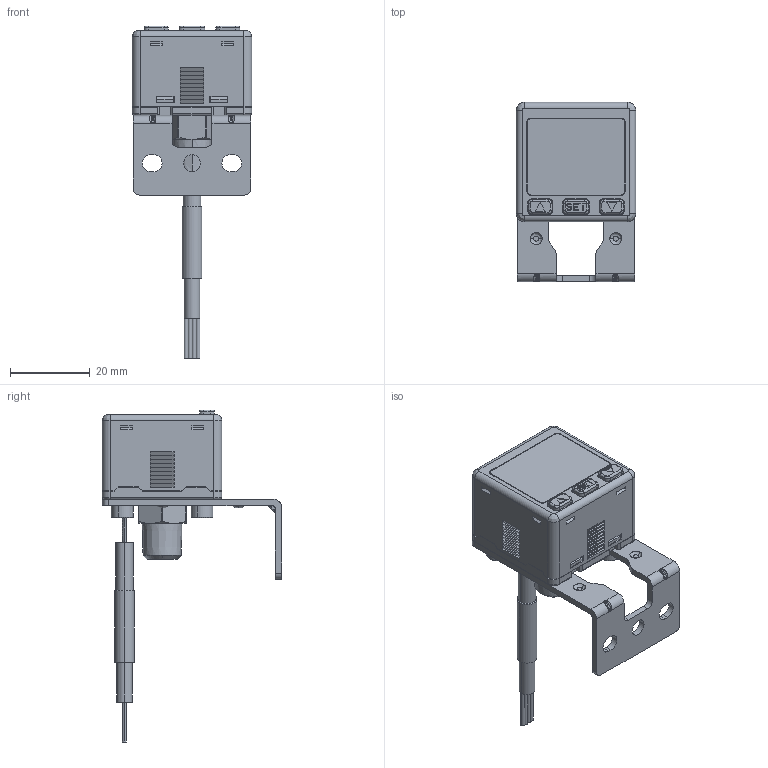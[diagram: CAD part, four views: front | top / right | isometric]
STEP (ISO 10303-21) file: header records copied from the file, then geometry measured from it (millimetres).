
FILE_DESCRIPTION((''),'2;1');
FILE_NAME('KP47_BT-15','2024-12-13T',('tommy'),(''),'CREO PARAMETRIC BY PTC INC, 2014500','CREO PARAMETRIC BY PTC INC, 2014500','');
FILE_SCHEMA(('CONFIG_CONTROL_DESIGN'));
Length unit declared in the file: millimetre
Products named in the file (1): KP47_BT-15
Bounding box: 30 x 45 x 83.35 mm (x, y, z)
Volume: 22707.3 mm3; surface area: 9162.8 mm2
Topology: 2 solids, 2 shells, 910 faces, 2309 edges, 1428 vertices
Faces by surface type: plane 656, cylinder 162, bspline 47, torus 27, cone 18
Entity records: 30784 total; most frequent: CARTESIAN_POINT 9181, ORIENTED_EDGE 4610, DIRECTION 4185, EDGE_CURVE 2305, VECTOR 1805, LINE 1805, VERTEX_POINT 1428, AXIS2_PLACEMENT_3D 1190
